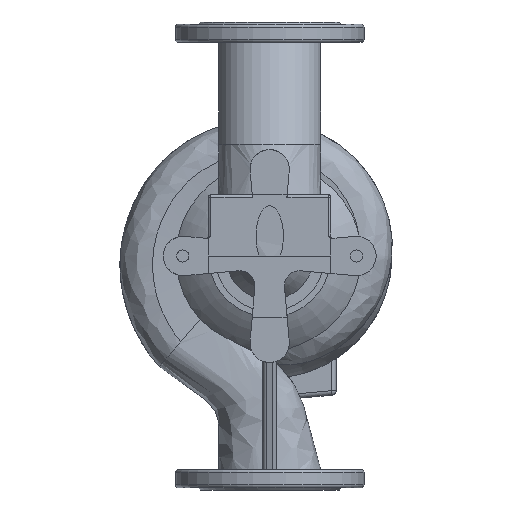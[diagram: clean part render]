
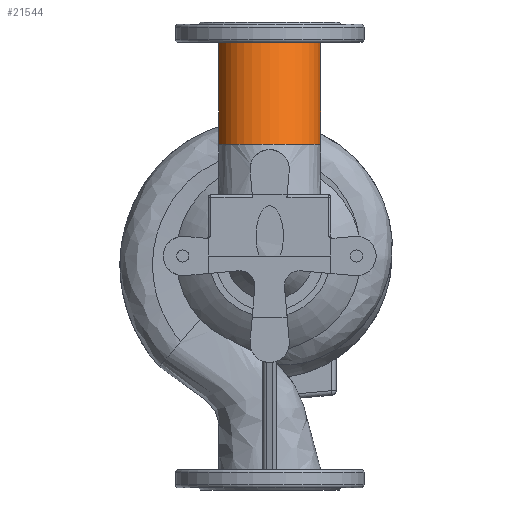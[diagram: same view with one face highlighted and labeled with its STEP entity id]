
A CAD part, front view. The second image highlights one B-rep face of the part: STEP entity #21544.
In plain terms, the highlighted free-form (B-spline) face has degree [3, 1] with [7, 2] control points.
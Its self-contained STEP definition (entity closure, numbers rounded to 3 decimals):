
#145 = ORIENTED_EDGE ( 'NONE', *, *, #25048, .F. ) ;
#395 = CARTESIAN_POINT ( 'NONE',  ( -67.5, -197.955, 147.993 ) ) ;
#1872 = CARTESIAN_POINT ( 'NONE',  ( -67.5, 0., 283. ) ) ;
#2131 = DIRECTION ( 'NONE',  ( 0., 0., -1. ) ) ;
#2883 = CARTESIAN_POINT ( 'NONE',  ( 67.5, -197.955, 147.993 ) ) ;
#2937 = AXIS2_PLACEMENT_3D ( 'NONE', #14778, #10799, #17290 ) ;
#2956 = B_SPLINE_CURVE_WITH_KNOTS ( 'NONE', 1,
 ( #23232, #3008 ),
 .UNSPECIFIED., .F., .F.,
 ( 2, 2 ),
 ( 0., 1. ),
 .UNSPECIFIED. ) ;
#3008 = CARTESIAN_POINT ( 'NONE',  ( 67.5, 0., 283. ) ) ;
#3021 = CARTESIAN_POINT ( 'NONE',  ( -67.5, -62.955, 147.993 ) ) ;
#3599 = CARTESIAN_POINT ( 'NONE',  ( -67.5, -62.955, 147.993 ) ) ;
#4637 = DIRECTION ( 'NONE',  ( -1., 0., 0. ) ) ;
#4808 = CARTESIAN_POINT ( 'NONE',  ( -67.5, -62.955, 147.993 ) ) ;
#5343 = EDGE_LOOP ( 'NONE', ( #24084, #23860, #25913, #145 ) ) ;
#5750 =( BOUNDED_SURFACE ( )  B_SPLINE_SURFACE ( 3, 1, ( 
 ( #4808, #1872 ),
 ( #10878, #8963 ),
 ( #17954, #13227 ),
 ( #11021, #20588 ),
 ( #2883, #25733 ),
 ( #395, #23244 ),
 ( #3021, #21176 ) ),
 .UNSPECIFIED., .T., .F., .F. ) 
 B_SPLINE_SURFACE_WITH_KNOTS ( ( 4, 3, 4 ),
 ( 2, 2 ),
 ( 0., 0.5, 1. ),
 ( 0., 1. ),
 .UNSPECIFIED. ) 
 GEOMETRIC_REPRESENTATION_ITEM ( )  RATIONAL_B_SPLINE_SURFACE ( (
 ( 1., 1.),
 ( 0.333, 0.333),
 ( 0.333, 0.333),
 ( 1., 1.),
 ( 0.333, 0.333),
 ( 0.333, 0.333),
 ( 1., 1.) ) ) 
 REPRESENTATION_ITEM ( '' )  SURFACE ( )  );
#6145 = CARTESIAN_POINT ( 'NONE',  ( -67.5, 0., 283. ) ) ;
#6189 = VERTEX_POINT ( 'NONE', #15286 ) ;
#7514 = EDGE_CURVE ( 'NONE', #12923, #16997, #2956, .T. ) ;
#8963 = CARTESIAN_POINT ( 'NONE',  ( -67.5, 135., 283. ) ) ;
#10799 = DIRECTION ( 'NONE',  ( 0., 0., -1. ) ) ;
#10878 = CARTESIAN_POINT ( 'NONE',  ( -67.5, 72.045, 147.993 ) ) ;
#11021 = CARTESIAN_POINT ( 'NONE',  ( 67.5, -62.955, 147.993 ) ) ;
#11274 = CIRCLE ( 'NONE', #23994, 67.5 ) ;
#12923 = VERTEX_POINT ( 'NONE', #14072 ) ;
#13227 = CARTESIAN_POINT ( 'NONE',  ( 67.5, 135., 283. ) ) ;
#13787 = CIRCLE ( 'NONE', #2937, 67.5 ) ;
#14072 = CARTESIAN_POINT ( 'NONE',  ( 67.5, -62.955, 147.993 ) ) ;
#14778 = CARTESIAN_POINT ( 'NONE',  ( 0., 0., 283. ) ) ;
#15286 = CARTESIAN_POINT ( 'NONE',  ( -67.5, 0., 283. ) ) ;
#16514 = CARTESIAN_POINT ( 'NONE',  ( 67.5, 0., 283. ) ) ;
#16759 = EDGE_CURVE ( 'NONE', #16997, #6189, #13787, .T. ) ;
#16997 = VERTEX_POINT ( 'NONE', #16514 ) ;
#17290 = DIRECTION ( 'NONE',  ( -1., 0., 0. ) ) ;
#17637 = CARTESIAN_POINT ( 'NONE',  ( -67.5, -62.955, 147.993 ) ) ;
#17954 = CARTESIAN_POINT ( 'NONE',  ( 67.5, 72.045, 147.993 ) ) ;
#18069 = CARTESIAN_POINT ( 'NONE',  ( 0., -62.955, 147.993 ) ) ;
#20588 = CARTESIAN_POINT ( 'NONE',  ( 67.5, 0., 283. ) ) ;
#21176 = CARTESIAN_POINT ( 'NONE',  ( -67.5, 0., 283. ) ) ;
#21544 = ADVANCED_FACE ( 'NONE', ( #29144 ), #5750, .F. ) ;
#21821 = VERTEX_POINT ( 'NONE', #3599 ) ;
#23133 = EDGE_CURVE ( 'NONE', #12923, #21821, #11274, .T. ) ;
#23232 = CARTESIAN_POINT ( 'NONE',  ( 67.5, -62.955, 147.993 ) ) ;
#23244 = CARTESIAN_POINT ( 'NONE',  ( -67.5, -135., 283. ) ) ;
#23860 = ORIENTED_EDGE ( 'NONE', *, *, #7514, .T. ) ;
#23994 = AXIS2_PLACEMENT_3D ( 'NONE', #18069, #2131, #4637 ) ;
#24084 = ORIENTED_EDGE ( 'NONE', *, *, #23133, .F. ) ;
#24759 = B_SPLINE_CURVE_WITH_KNOTS ( 'NONE', 1,
 ( #17637, #6145 ),
 .UNSPECIFIED., .F., .F.,
 ( 2, 2 ),
 ( 0., 1. ),
 .UNSPECIFIED. ) ;
#25048 = EDGE_CURVE ( 'NONE', #21821, #6189, #24759, .T. ) ;
#25733 = CARTESIAN_POINT ( 'NONE',  ( 67.5, -135., 283. ) ) ;
#25913 = ORIENTED_EDGE ( 'NONE', *, *, #16759, .T. ) ;
#29144 = FACE_OUTER_BOUND ( 'NONE', #5343, .T. ) ;
